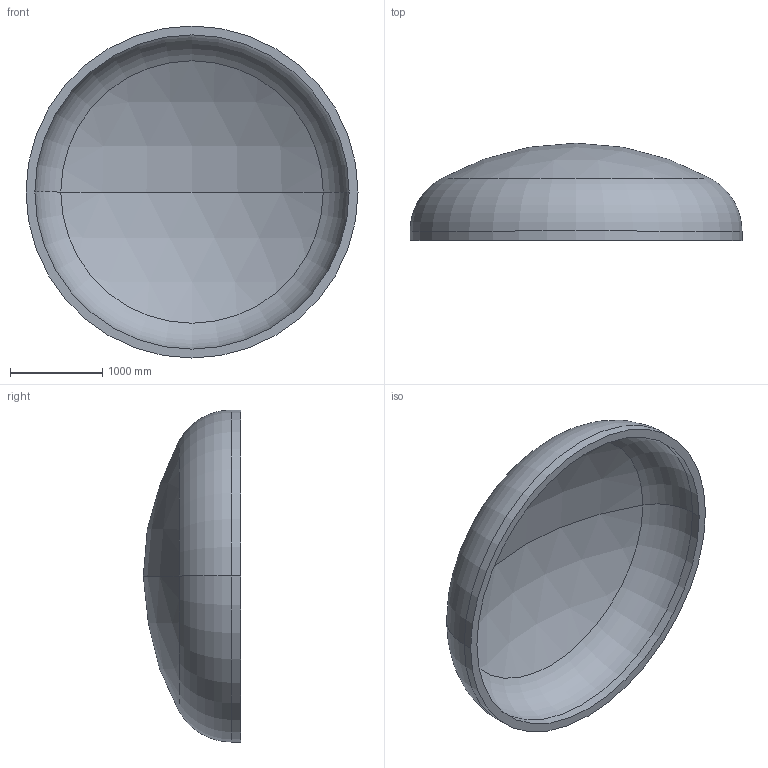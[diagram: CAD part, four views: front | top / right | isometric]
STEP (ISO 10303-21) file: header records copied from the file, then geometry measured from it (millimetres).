
FILE_DESCRIPTION (( 'STEP AP203' ), '1' );
FILE_NAME ('DIN 28013 Korbbogenform_-_Boden DIN 28013 - 3600 x 100 - I - s=96.step', '2016-07-01T20:47:39', ( '' ), ( '' ), 'SwSTEP 2.0', 'SolidWorks 2013', '' );
FILE_SCHEMA (( 'CONFIG_CONTROL_DESIGN' ));
Length unit declared in the file: millimetre
Products named in the file (1): DIN 28013 Korbbogenform_-_Boden DIN 28013 - 3600 x 100 - I - s=96
Bounding box: 3600 x 1054.76 x 3600 mm (x, y, z)
Volume: 1412857421.6 mm3; surface area: 30510603.1 mm2
Topology: 1 solids, 1 shells, 13 faces, 24 edges, 14 vertices
Faces by surface type: torus 4, cylinder 4, sphere 4, plane 1
Entity records: 407 total; most frequent: DIRECTION 72, CARTESIAN_POINT 52, ORIENTED_EDGE 48, AXIS2_PLACEMENT_3D 34, EDGE_CURVE 24, CIRCLE 20, EDGE_LOOP 14, VERTEX_POINT 14
